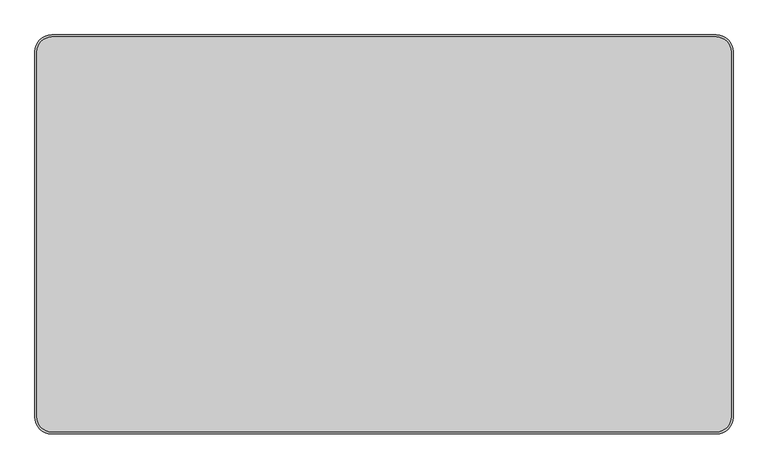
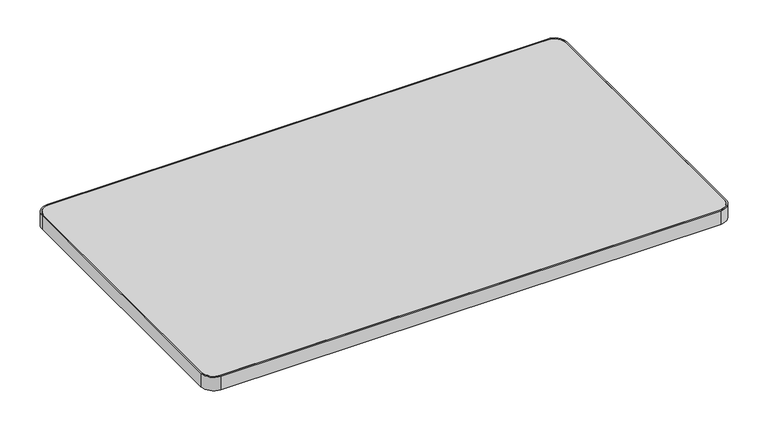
"""IFC4 building model written with IfcOpenShell, lengths in millimetres: furniture geometry, Steelcase - Groupwork - Table - Top - Rectangular : 24D x 42W - HPL."""

from ifc_helpers import new_model, si_unit, point, frame, frame_2d, origin, place, context, project, spatial, polyline, circle_curve, trimmed, segment, composite_curve, outline, extrude, source, transform, mapped, element, save


def furniture_ad01e5af(model_context):
    return source(origin(), model_context, "Body", "SweptSolid", [
        extrude(outline(composite_curve([segment(polyline([(-535.94, 301.8), (479.14, 301.8)]), True, "CONTINUOUS"), segment(trimmed(circle_curve(frame_2d((479.14, 278.94)), 22.86), [point((479.14, 301.8))], [point((502.0, 278.94))], False, "CARTESIAN"), True, "CONTINUOUS"), segment(polyline([(502.0, 278.94), (502.0, -278.94)]), True, "CONTINUOUS"), segment(trimmed(circle_curve(frame_2d((479.14, -278.94)), 22.86), [point((502.0, -278.94))], [point((479.14, -301.8))], False, "CARTESIAN"), True, "CONTINUOUS"), segment(polyline([(479.14, -301.8), (-535.94, -301.8)]), True, "CONTINUOUS"), segment(trimmed(circle_curve(frame_2d((-535.94, -278.94)), 22.86), [point((-535.94, -301.8))], [point((-558.8, -278.94))], False, "CARTESIAN"), True, "CONTINUOUS"), segment(polyline([(-558.8, -278.94), (-558.8, 278.94)]), True, "CONTINUOUS"), segment(trimmed(circle_curve(frame_2d((-535.94, 278.94)), 22.86), [point((-558.8, 278.94))], [point((-535.94, 301.8))], False, "CARTESIAN"), True, "CONTINUOUS")], self_intersect=False)), frame((0.0, 0.0, 694.944), z_axis=(0.0, 0.0, 1.0), x_axis=(1.0, 0.0, 0.0)), (0.0, 0.0, 1.0), 28.956),
        extrude(outline(composite_curve([segment(trimmed(circle_curve(frame_2d((479.5385373, 279.3385373)), 25.4614627), [point((479.5385373, 304.8))], [point((505.0, 279.3385373))], False, "CARTESIAN"), True, "CONTINUOUS"), segment(polyline([(505.0, 279.3385373), (505.0, -279.4211297)]), True, "CONTINUOUS"), segment(trimmed(circle_curve(frame_2d((479.6211297, -279.4211297)), 25.3788703), [point((505.0, -279.4211297))], [point((479.6211297, -304.8))], False, "CARTESIAN"), True, "CONTINUOUS"), segment(polyline([(479.6211297, -304.8), (-536.4, -304.8)]), True, "CONTINUOUS"), segment(trimmed(circle_curve(frame_2d((-536.4, -279.4)), 25.4), [point((-536.4, -304.8))], [point((-561.8, -279.4))], False, "CARTESIAN"), True, "CONTINUOUS"), segment(polyline([(-561.8, -279.4), (-561.8, 279.4)]), True, "CONTINUOUS"), segment(trimmed(circle_curve(frame_2d((-536.4, 279.4)), 25.4), [point((-561.8, 279.4))], [point((-536.4, 304.8))], False, "CARTESIAN"), True, "CONTINUOUS"), segment(polyline([(-536.4, 304.8), (479.5385373, 304.8)]), True, "CONTINUOUS")], self_intersect=False), holes=[composite_curve([segment(polyline([(479.2064662, 301.8), (-535.94, 301.8)]), True, "CONTINUOUS"), segment(trimmed(circle_curve(frame_2d((-535.94, 278.94)), 22.86), [point((-535.94, 301.8))], [point((-558.8, 278.94))], True, "CARTESIAN"), True, "CONTINUOUS"), segment(polyline([(-558.8, 278.94), (-558.8, -278.94)]), True, "CONTINUOUS"), segment(trimmed(circle_curve(frame_2d((-535.94, -278.94)), 22.86), [point((-558.8, -278.94))], [point((-535.94, -301.8))], True, "CARTESIAN"), True, "CONTINUOUS"), segment(polyline([(-535.94, -301.8), (478.973488, -301.8)]), True, "CONTINUOUS"), segment(trimmed(circle_curve(frame_2d((478.973488, -278.773488)), 23.026512), [point((478.973488, -301.8))], [point((502.0, -278.773488))], True, "CARTESIAN"), True, "CONTINUOUS"), segment(polyline([(502.0, -278.773488), (502.0, 279.0064662)]), True, "CONTINUOUS"), segment(trimmed(circle_curve(frame_2d((479.2064662, 279.0064662)), 22.7935338), [point((502.0, 279.0064662))], [point((479.2064662, 301.8))], True, "CARTESIAN"), True, "CONTINUOUS")], self_intersect=False)]), frame((0.0, 0.0, 694.944), z_axis=(0.0, 0.0, 1.0), x_axis=(1.0, 0.0, 0.0)), (0.0, 0.0, 1.0), 28.956),
    ])


if __name__ == "__main__":
    model = new_model("IFC4")
    model_context = context("Model", 3, world=origin())
    ifc_project = project(units=[si_unit("LENGTHUNIT", "METRE", prefix="MILLI")], contexts=[model_context])
    site = spatial("IfcSite", under=ifc_project)
    building = spatial("IfcBuilding", under=site)
    placement = place(None, origin())
    furniture_shape = furniture_ad01e5af(model_context)
    element("IfcFurniture", 1, ObjectType="Steelcase - Groupwork - Table - Top - Rectangular : 24D x 42W - HPL", at=placement, inside=building, context=model_context, shape_type="MappedRepresentation", body=[
        mapped(furniture_shape, transform((0.0, 0.0, 0.0), x_axis=(1.0, 0.0, 0.0), y_axis=(0.0, 1.0, 0.0), z_axis=(0.0, 0.0, 1.0))),
    ])
    save(model, "model.ifc")
